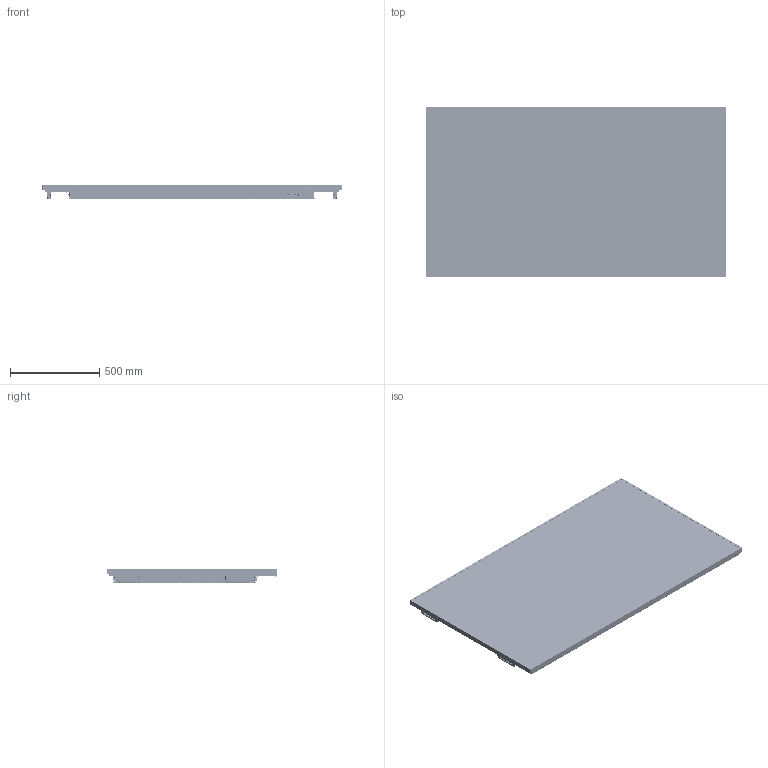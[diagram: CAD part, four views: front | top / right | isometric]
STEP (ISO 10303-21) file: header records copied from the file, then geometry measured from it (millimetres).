
FILE_DESCRIPTION((''),'2;1');
FILE_NAME('URP752-20250401_ASM_1_ASM','2025-07-09T17:16:10',('曾'),('制作'),'CREO PARAMETRIC BY PTC INC, 2018500','CREO PARAMETRIC BY PTC INC, 2018500','');
FILE_SCHEMA(('CONFIG_CONTROL_DESIGN','GEOMETRIC_VALIDATION_PROPERTIES_MIM'));
Products named in the file (77): BSO_362_1_67_1_1; 75Q6_BACK_COVER_ASM_8_ASM_69_AS_ASM; 75Q6_BACK-COVER-20240805_21_2_6; 75Q6_BACK-COVER-20240805_21_3_6; 75Q6_BACK-COVER-20240805_21_4_6; 75Q6_BACK-COVER-20240805_21_5_6; 75Q6_BACK-COVER-20240805_21_6_6; 75Q6_BACK-COVER-20240805_21_7_6; 75Q6_BACK-COVER-20240805-537667_ASM; 75Q6_LCM_20230530_ASM_1_ASM_67__ASM; AA_ST7461D01-A_1_1_1_1_-1171696; CF_GLASS_ST7461D01-A_3_1_1_1_1_; TFT_GLASS_ST7461D01-A_10_1_1_1_; AA_CUT_ST7461D01-A_2_1_1_1_1_67; OPENCELL_ST7461D03-2_ASM_8_A-25_ASM; OPENCELL_ST7461D03-2_ASM_-10106_ASM; OPENCELL_ST7461D03-2_ASM_8_ASM__ASM; OPENCELL_ST7461D03-2_0_5T__ASM__ASM; OPENCELL_SG7461D03-1_0_5T_ASM_6_ASM; 75Q63D_0AF00-200001_ASM_67_ASM__ASM; DISPLAY-M-FRAME-T_71_1_1; DISPLAY-M-FRAME-B_71_1_1; DISPLAY-M-FRAME-L_72_1_2; DISPLAY-M-FRAME-RR_12_1_2; DISPLAY-M-FRAME_ASM_72_ASM_2_AS_ASM; DISPLAY-FRAME-TOP_74_1_1; DISPLAY-FRAME-BOTTOM_76_1_1; DISPLAY-FRAME-LEFT_77_1_1; DISPLAY-FRAME-RIGHT_77_1_1; DISPLAY-OUTSIDE-FRAME_ASM_72_AS_ASM; YDP75-1JBOX-CW01-3D_13_4_2_67_1; WOOFER-HOLDER_68_1_1; YDP75-1JBOX-CW01-3D_13_4_ASM_67_ASM; 550_BACK-COVER-C2_13_1_-1359939; BACKCOVER-RIGHT_1_1_70_1_3; 550_BACK-COVER_ASM_17_ASM_1_ASM_ASM; 55-BACKLIGHT_ASM_1_ASM_1_ASM_67_ASM; SIDECOVER-LEFT_1_1_72_1_1; SIDECOVER-TOP_1_1_71_1_1; SIDECOVE-RIGHT_1_1_72_1_1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
Assembly tree (86 placements, depth 10):
  URP752-20250401_ASM_1_ASM
    00-URP-KINGMAN-75_ASM_ASM_1_ASM_ASM
      00-URP-KINGMAN-75_ASM_74_ASM_2__ASM
        75Q63D_0AF00-200001_ASM_67_ASM__ASM
          75Q6_LCM_20230530_ASM_1_ASM_67__ASM
            75Q6_BACK_COVER_ASM_8_ASM_69_AS_ASM
              BSO_362_1_67_1_1  x4
            75Q6_BACK-COVER-20240805-537667_ASM
              75Q6_BACK-COVER-20240805_21_2_6
              75Q6_BACK-COVER-20240805_21_3_6
              75Q6_BACK-COVER-20240805_21_4_6
              75Q6_BACK-COVER-20240805_21_5_6
              75Q6_BACK-COVER-20240805_21_6_6
              75Q6_BACK-COVER-20240805_21_7_6
          OPENCELL_SG7461D03-1_0_5T_ASM_6_ASM
            OPENCELL_ST7461D03-2_0_5T__ASM__ASM
              OPENCELL_ST7461D03-2_ASM_8_ASM__ASM
                OPENCELL_ST7461D03-2_ASM_-10106_ASM
                  OPENCELL_ST7461D03-2_ASM_8_A-25_ASM
        DISPLAY-OUTSIDE-FRAME_ASM_72_AS_ASM
          DISPLAY-M-FRAME_ASM_72_ASM_2_AS_ASM
            DISPLAY-M-FRAME-T_71_1_1
            DISPLAY-M-FRAME-B_71_1_1
            DISPLAY-M-FRAME-L_72_1_2
            DISPLAY-M-FRAME-RR_12_1_2
          DISPLAY-FRAME-TOP_74_1_1
          DISPLAY-FRAME-BOTTOM_76_1_1
          DISPLAY-FRAME-LEFT_77_1_1
          DISPLAY-FRAME-RIGHT_77_1_1
        YDP75-1JBOX-CW01-3D_13_4_ASM_67_ASM
          YDP75-1JBOX-CW01-3D_13_4_2_67_1
          WOOFER-HOLDER_68_1_1
        BOARDS-AND-BACKCOVERS_ASM_1_ASM_ASM
          BOARDS-AND-BACKCOVERS_ASM_1_A_1_ASM
            55-BACKLIGHT_ASM_1_ASM_1_ASM_67_ASM
              550_BACK-COVER_ASM_17_ASM_1_ASM_ASM
                550_BACK-COVER-C2_13_1_-1359939
                BACKCOVER-RIGHT_1_1_70_1_3
            SIDECOVER-LEFT_1_1_72_1_1
            SIDECOVER-TOP_1_1_71_1_1
            SIDECOVE-RIGHT_1_1_72_1_1
            DISPLAY-BACKCOVER-BOT_72_1_1
            2738-MAIN-PCBA_ASM_8_ASM_ASM_1__ASM
              MAIN-PCBA_ASM_8_ASM_21_ASM_1_AS_ASM
                HDMI-1_2_1_1_24_4_1_13_3_20_1_1  x2
                USB_TYPEC_2_1_1_24_4_1_13_3_2_1
                DP_24_4_1_13_3_20_1_1_67_1_1  x3
                USB_B-3_3_1_2_11_24_3_1_13_3__1
                IR_35_11_1-8437640_2_1252_24__2
                S232EDU_MS8386_17-1015_1_3_1__2
                RJ45ZP5_PRT_1_1_1_1_1_1252333_2
                SPDIF_PLT_24_4_1_13_3_19_1_1_67
                PRT0009_3_19_1_1_67_1_1
                USB-LS-3-0_24_2_1_1_2_50_1_1_1_
                RESET-KEY_1_1_67_1_1
            550_AC-IN_LB_ASM_5_ASM_1_ASM_1__ASM
              AC-OUT_1_1_67_1_1
              TS27_2_1_1_1_1_67_1_1
              AN-IN_AC-1_2_1_1_67_1_1
              AC-IN_ROCKER-SWITCH_3_1_1_67_1_
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Bounding box: 1674.7 x 954.55 x 77 mm (x, y, z)
Volume: 5147693.4 mm3; surface area: 14497843.5 mm2
Topology: 54 solids, 71 shells, 17253 faces, 50715 edges, 33778 vertices
Faces by surface type: cylinder 12070, plane 4339, cone 458, bspline 184, torus 104, extrusion 90, sphere 8
Entity records: 673984 total; most frequent: DIRECTION 98093, CARTESIAN_POINT 94586, ORIENTED_EDGE 87914, PRESENTATION_STYLE_ASSIGNMENT 44025, STYLED_ITEM 44025, CURVE_STYLE 43972, EDGE_CURVE 43972, AXIS2_PLACEMENT_3D 39401
